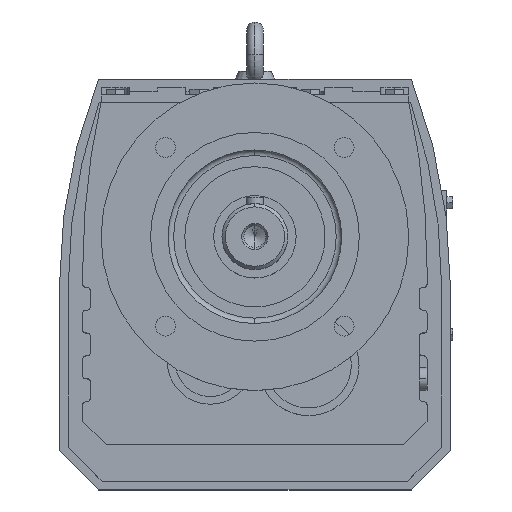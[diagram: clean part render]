
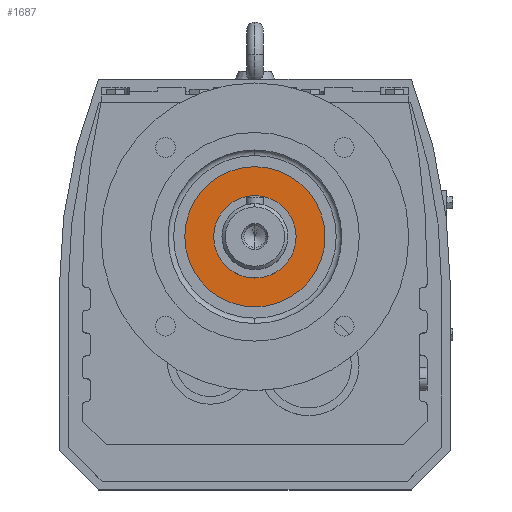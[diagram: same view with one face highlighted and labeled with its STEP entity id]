
A CAD part, top view. The second image highlights one B-rep face of the part: STEP entity #1687.
In plain terms, the highlighted planar face has unit normal (0, 0, 1).
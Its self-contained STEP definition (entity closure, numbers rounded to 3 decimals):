
#1221 = CYLINDRICAL_SURFACE('',#1222,18.75);
#1222 = AXIS2_PLACEMENT_3D('',#1223,#1224,#1225);
#1223 = CARTESIAN_POINT('',(0.,14.,235.));
#1224 = DIRECTION('',(0.,0.,1.));
#1225 = DIRECTION('',(0.,-1.,0.));
#1251 = CYLINDRICAL_SURFACE('',#1252,18.75);
#1252 = AXIS2_PLACEMENT_3D('',#1253,#1254,#1255);
#1253 = CARTESIAN_POINT('',(0.,14.,235.));
#1254 = DIRECTION('',(0.,0.,1.));
#1255 = DIRECTION('',(0.,-1.,0.));
#1436 = EDGE_CURVE('',#1437,#1439,#1441,.T.);
#1437 = VERTEX_POINT('',#1438);
#1438 = CARTESIAN_POINT('',(0.,-4.75,169.));
#1439 = VERTEX_POINT('',#1440);
#1440 = CARTESIAN_POINT('',(0.,32.75,169.));
#1441 = SURFACE_CURVE('',#1442,(#1447,#1453),.PCURVE_S1.);
#1442 = CIRCLE('',#1443,18.75);
#1443 = AXIS2_PLACEMENT_3D('',#1444,#1445,#1446);
#1444 = CARTESIAN_POINT('',(0.,14.,169.));
#1445 = DIRECTION('',(0.,0.,1.));
#1446 = DIRECTION('',(-1.,0.,0.));
#1447 = PCURVE('',#1221,#1448);
#1448 = DEFINITIONAL_REPRESENTATION('',(#1449),#1452);
#1449 = B_SPLINE_CURVE_WITH_KNOTS('',1,(#1450,#1451),.UNSPECIFIED.,.F.,
  .F.,(2,2),(1.571,4.712),.PIECEWISE_BEZIER_KNOTS.);
#1450 = CARTESIAN_POINT('',(0.,-66.));
#1451 = CARTESIAN_POINT('',(3.142,-66.));
#1452 = ( GEOMETRIC_REPRESENTATION_CONTEXT(2) 
PARAMETRIC_REPRESENTATION_CONTEXT() REPRESENTATION_CONTEXT('2D SPACE',''
  ) );
#1453 = PCURVE('',#1454,#1459);
#1454 = PLANE('',#1455);
#1455 = AXIS2_PLACEMENT_3D('',#1456,#1457,#1458);
#1456 = CARTESIAN_POINT('',(-13.758,8.858,169.));
#1457 = DIRECTION('',(0.,0.,-1.));
#1458 = DIRECTION('',(-1.,0.,0.));
#1459 = DEFINITIONAL_REPRESENTATION('',(#1460),#1468);
#1460 = ( BOUNDED_CURVE() B_SPLINE_CURVE(2,(#1461,#1462,#1463,#1464,
#1465,#1466,#1467),.UNSPECIFIED.,.T.,.F.) B_SPLINE_CURVE_WITH_KNOTS((1,2
    ,2,2,2,1),(-2.094,0.,2.094,4.189,
6.283,8.378),.UNSPECIFIED.) CURVE() 
GEOMETRIC_REPRESENTATION_ITEM() RATIONAL_B_SPLINE_CURVE((1.,0.5,1.,0.5,
1.,0.5,1.)) REPRESENTATION_ITEM('') );
#1461 = CARTESIAN_POINT('',(4.992,5.142));
#1462 = CARTESIAN_POINT('',(4.992,-27.334));
#1463 = CARTESIAN_POINT('',(-23.133,-11.096));
#1464 = CARTESIAN_POINT('',(-51.258,5.142));
#1465 = CARTESIAN_POINT('',(-23.133,21.38));
#1466 = CARTESIAN_POINT('',(4.992,37.618));
#1467 = CARTESIAN_POINT('',(4.992,5.142));
#1468 = ( GEOMETRIC_REPRESENTATION_CONTEXT(2) 
PARAMETRIC_REPRESENTATION_CONTEXT() REPRESENTATION_CONTEXT('2D SPACE',''
  ) );
#1513 = EDGE_CURVE('',#1439,#1437,#1514,.T.);
#1514 = SURFACE_CURVE('',#1515,(#1520,#1526),.PCURVE_S1.);
#1515 = CIRCLE('',#1516,18.75);
#1516 = AXIS2_PLACEMENT_3D('',#1517,#1518,#1519);
#1517 = CARTESIAN_POINT('',(0.,14.,169.));
#1518 = DIRECTION('',(0.,0.,1.));
#1519 = DIRECTION('',(-1.,0.,0.));
#1520 = PCURVE('',#1251,#1521);
#1521 = DEFINITIONAL_REPRESENTATION('',(#1522),#1525);
#1522 = B_SPLINE_CURVE_WITH_KNOTS('',1,(#1523,#1524),.UNSPECIFIED.,.F.,
  .F.,(2,2),(4.712,7.854),.PIECEWISE_BEZIER_KNOTS.);
#1523 = CARTESIAN_POINT('',(3.142,-66.));
#1524 = CARTESIAN_POINT('',(6.283,-66.));
#1525 = ( GEOMETRIC_REPRESENTATION_CONTEXT(2) 
PARAMETRIC_REPRESENTATION_CONTEXT() REPRESENTATION_CONTEXT('2D SPACE',''
  ) );
#1526 = PCURVE('',#1454,#1527);
#1527 = DEFINITIONAL_REPRESENTATION('',(#1528),#1536);
#1528 = ( BOUNDED_CURVE() B_SPLINE_CURVE(2,(#1529,#1530,#1531,#1532,
#1533,#1534,#1535),.UNSPECIFIED.,.T.,.F.) B_SPLINE_CURVE_WITH_KNOTS((1,2
    ,2,2,2,1),(-2.094,0.,2.094,4.189,
6.283,8.378),.UNSPECIFIED.) CURVE() 
GEOMETRIC_REPRESENTATION_ITEM() RATIONAL_B_SPLINE_CURVE((1.,0.5,1.,0.5,
1.,0.5,1.)) REPRESENTATION_ITEM('') );
#1529 = CARTESIAN_POINT('',(4.992,5.142));
#1530 = CARTESIAN_POINT('',(4.992,-27.334));
#1531 = CARTESIAN_POINT('',(-23.133,-11.096));
#1532 = CARTESIAN_POINT('',(-51.258,5.142));
#1533 = CARTESIAN_POINT('',(-23.133,21.38));
#1534 = CARTESIAN_POINT('',(4.992,37.618));
#1535 = CARTESIAN_POINT('',(4.992,5.142));
#1536 = ( GEOMETRIC_REPRESENTATION_CONTEXT(2) 
PARAMETRIC_REPRESENTATION_CONTEXT() REPRESENTATION_CONTEXT('2D SPACE',''
  ) );
#1687 = ADVANCED_FACE('',(#1688,#1692),#1454,.F.);
#1688 = FACE_BOUND('',#1689,.T.);
#1689 = EDGE_LOOP('',(#1690,#1691));
#1690 = ORIENTED_EDGE('',*,*,#1436,.F.);
#1691 = ORIENTED_EDGE('',*,*,#1513,.F.);
#1692 = FACE_BOUND('',#1693,.T.);
#1693 = EDGE_LOOP('',(#1694,#1747));
#1694 = ORIENTED_EDGE('',*,*,#1695,.F.);
#1695 = EDGE_CURVE('',#1696,#1698,#1700,.T.);
#1696 = VERTEX_POINT('',#1697);
#1697 = CARTESIAN_POINT('',(0.,-17.894,169.));
#1698 = VERTEX_POINT('',#1699);
#1699 = CARTESIAN_POINT('',(0.,45.894,169.));
#1700 = SURFACE_CURVE('',#1701,(#1706,#1713),.PCURVE_S1.);
#1701 = CIRCLE('',#1702,31.894);
#1702 = AXIS2_PLACEMENT_3D('',#1703,#1704,#1705);
#1703 = CARTESIAN_POINT('',(0.,14.,169.));
#1704 = DIRECTION('',(0.,0.,-1.));
#1705 = DIRECTION('',(-1.,0.,0.));
#1706 = PCURVE('',#1454,#1707);
#1707 = DEFINITIONAL_REPRESENTATION('',(#1708),#1712);
#1708 = CIRCLE('',#1709,31.894);
#1709 = AXIS2_PLACEMENT_2D('',#1710,#1711);
#1710 = CARTESIAN_POINT('',(-13.758,5.142));
#1711 = DIRECTION('',(1.,0.));
#1712 = ( GEOMETRIC_REPRESENTATION_CONTEXT(2) 
PARAMETRIC_REPRESENTATION_CONTEXT() REPRESENTATION_CONTEXT('2D SPACE',''
  ) );
#1713 = PCURVE('',#1714,#1719);
#1714 = CYLINDRICAL_SURFACE('',#1715,31.894);
#1715 = AXIS2_PLACEMENT_3D('',#1716,#1717,#1718);
#1716 = CARTESIAN_POINT('',(0.,14.,235.));
#1717 = DIRECTION('',(0.,0.,1.));
#1718 = DIRECTION('',(0.,-1.,0.));
#1719 = DEFINITIONAL_REPRESENTATION('',(#1720),#1746);
#1720 = B_SPLINE_CURVE_WITH_KNOTS('',3,(#1721,#1722,#1723,#1724,#1725,
    #1726,#1727,#1728,#1729,#1730,#1731,#1732,#1733,#1734,#1735,#1736,
    #1737,#1738,#1739,#1740,#1741,#1742,#1743,#1744,#1745),
  .UNSPECIFIED.,.F.,.F.,(4,1,1,1,1,1,1,1,1,1,1,1,1,1,1,1,1,1,1,1,1,1,4),
  (4.712,4.855,4.998,5.141,
    5.284,5.426,5.569,5.712,
    5.855,5.998,6.14,6.283,
    6.426,6.569,6.712,6.854,
    6.997,7.14,7.283,7.426,
    7.568,7.711,7.854),.QUASI_UNIFORM_KNOTS.);
#1721 = CARTESIAN_POINT('',(6.283,-66.));
#1722 = CARTESIAN_POINT('',(6.236,-66.));
#1723 = CARTESIAN_POINT('',(6.14,-66.));
#1724 = CARTESIAN_POINT('',(5.998,-66.));
#1725 = CARTESIAN_POINT('',(5.855,-66.));
#1726 = CARTESIAN_POINT('',(5.712,-66.));
#1727 = CARTESIAN_POINT('',(5.569,-66.));
#1728 = CARTESIAN_POINT('',(5.426,-66.));
#1729 = CARTESIAN_POINT('',(5.284,-66.));
#1730 = CARTESIAN_POINT('',(5.141,-66.));
#1731 = CARTESIAN_POINT('',(4.998,-66.));
#1732 = CARTESIAN_POINT('',(4.855,-66.));
#1733 = CARTESIAN_POINT('',(4.712,-66.));
#1734 = CARTESIAN_POINT('',(4.57,-66.));
#1735 = CARTESIAN_POINT('',(4.427,-66.));
#1736 = CARTESIAN_POINT('',(4.284,-66.));
#1737 = CARTESIAN_POINT('',(4.141,-66.));
#1738 = CARTESIAN_POINT('',(3.998,-66.));
#1739 = CARTESIAN_POINT('',(3.856,-66.));
#1740 = CARTESIAN_POINT('',(3.713,-66.));
#1741 = CARTESIAN_POINT('',(3.57,-66.));
#1742 = CARTESIAN_POINT('',(3.427,-66.));
#1743 = CARTESIAN_POINT('',(3.284,-66.));
#1744 = CARTESIAN_POINT('',(3.189,-66.));
#1745 = CARTESIAN_POINT('',(3.142,-66.));
#1746 = ( GEOMETRIC_REPRESENTATION_CONTEXT(2) 
PARAMETRIC_REPRESENTATION_CONTEXT() REPRESENTATION_CONTEXT('2D SPACE',''
  ) );
#1747 = ORIENTED_EDGE('',*,*,#1748,.F.);
#1748 = EDGE_CURVE('',#1698,#1696,#1749,.T.);
#1749 = SURFACE_CURVE('',#1750,(#1755,#1762),.PCURVE_S1.);
#1750 = CIRCLE('',#1751,31.894);
#1751 = AXIS2_PLACEMENT_3D('',#1752,#1753,#1754);
#1752 = CARTESIAN_POINT('',(0.,14.,169.));
#1753 = DIRECTION('',(0.,0.,-1.));
#1754 = DIRECTION('',(-1.,0.,0.));
#1755 = PCURVE('',#1454,#1756);
#1756 = DEFINITIONAL_REPRESENTATION('',(#1757),#1761);
#1757 = CIRCLE('',#1758,31.894);
#1758 = AXIS2_PLACEMENT_2D('',#1759,#1760);
#1759 = CARTESIAN_POINT('',(-13.758,5.142));
#1760 = DIRECTION('',(1.,0.));
#1761 = ( GEOMETRIC_REPRESENTATION_CONTEXT(2) 
PARAMETRIC_REPRESENTATION_CONTEXT() REPRESENTATION_CONTEXT('2D SPACE',''
  ) );
#1762 = PCURVE('',#1763,#1768);
#1763 = CYLINDRICAL_SURFACE('',#1764,31.894);
#1764 = AXIS2_PLACEMENT_3D('',#1765,#1766,#1767);
#1765 = CARTESIAN_POINT('',(0.,14.,235.));
#1766 = DIRECTION('',(0.,0.,1.));
#1767 = DIRECTION('',(0.,-1.,0.));
#1768 = DEFINITIONAL_REPRESENTATION('',(#1769),#1795);
#1769 = B_SPLINE_CURVE_WITH_KNOTS('',3,(#1770,#1771,#1772,#1773,#1774,
    #1775,#1776,#1777,#1778,#1779,#1780,#1781,#1782,#1783,#1784,#1785,
    #1786,#1787,#1788,#1789,#1790,#1791,#1792,#1793,#1794),
  .UNSPECIFIED.,.F.,.F.,(4,1,1,1,1,1,1,1,1,1,1,1,1,1,1,1,1,1,1,1,1,1,4),
  (1.571,1.714,1.856,1.999,
    2.142,2.285,2.428,2.57,
    2.713,2.856,2.999,3.142,
    3.284,3.427,3.57,3.713,
    3.856,3.998,4.141,4.284,
    4.427,4.57,4.712),.QUASI_UNIFORM_KNOTS.);
#1770 = CARTESIAN_POINT('',(3.142,-66.));
#1771 = CARTESIAN_POINT('',(3.094,-66.));
#1772 = CARTESIAN_POINT('',(2.999,-66.));
#1773 = CARTESIAN_POINT('',(2.856,-66.));
#1774 = CARTESIAN_POINT('',(2.713,-66.));
#1775 = CARTESIAN_POINT('',(2.57,-66.));
#1776 = CARTESIAN_POINT('',(2.428,-66.));
#1777 = CARTESIAN_POINT('',(2.285,-66.));
#1778 = CARTESIAN_POINT('',(2.142,-66.));
#1779 = CARTESIAN_POINT('',(1.999,-66.));
#1780 = CARTESIAN_POINT('',(1.856,-66.));
#1781 = CARTESIAN_POINT('',(1.714,-66.));
#1782 = CARTESIAN_POINT('',(1.571,-66.));
#1783 = CARTESIAN_POINT('',(1.428,-66.));
#1784 = CARTESIAN_POINT('',(1.285,-66.));
#1785 = CARTESIAN_POINT('',(1.142,-66.));
#1786 = CARTESIAN_POINT('',(1.,-66.));
#1787 = CARTESIAN_POINT('',(0.857,-66.));
#1788 = CARTESIAN_POINT('',(0.714,-66.));
#1789 = CARTESIAN_POINT('',(0.571,-66.));
#1790 = CARTESIAN_POINT('',(0.428,-66.));
#1791 = CARTESIAN_POINT('',(0.286,-66.));
#1792 = CARTESIAN_POINT('',(0.143,-66.));
#1793 = CARTESIAN_POINT('',(0.048,-66.));
#1794 = CARTESIAN_POINT('',(0.,-66.));
#1795 = ( GEOMETRIC_REPRESENTATION_CONTEXT(2) 
PARAMETRIC_REPRESENTATION_CONTEXT() REPRESENTATION_CONTEXT('2D SPACE',''
  ) );
